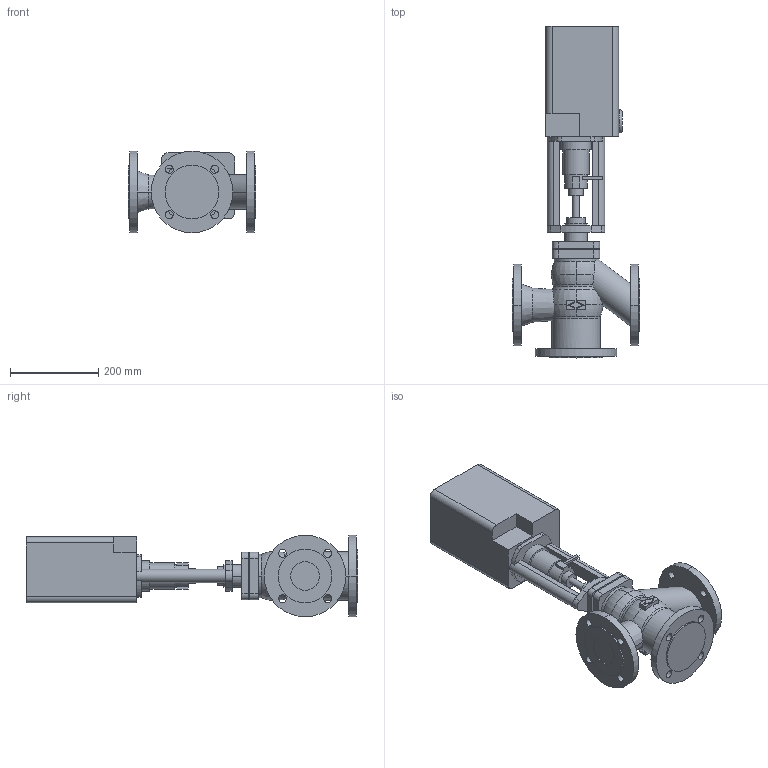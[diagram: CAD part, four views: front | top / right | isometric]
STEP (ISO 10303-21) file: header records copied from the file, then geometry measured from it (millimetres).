
FILE_DESCRIPTION(('OneSpaceDesigner STEP Export'),'2;1');
FILE_NAME('c000002381.stp','2006-09-19T11:53:54',(''),(''),'OneSpace Designer STEP processor for AP214 (Solid Model)','OneSpace Designer 13.20A 18-Aug-2005 (C) CoCreate Software GmbH','');
FILE_SCHEMA(('AUTOMOTIVE_DESIGN { 1 0 10303 214 1 1 1 1 }'));
Length unit declared in the file: millimetre
Products named in the file (2): 1; 2
Bounding box: 290 x 753.5 x 185 mm (x, y, z)
Volume: 11563185 mm3; surface area: 615571.7 mm2
Topology: 2 solids, 2 shells, 210 faces, 537 edges, 355 vertices
Faces by surface type: plane 94, cylinder 92, torus 20, cone 4
Entity records: 5945 total; most frequent: CARTESIAN_POINT 1153, ORIENTED_EDGE 1074, DIRECTION 887, EDGE_CURVE 537, VERTEX_POINT 355, AXIS2_PLACEMENT_3D 313, VECTOR 261, LINE 261
